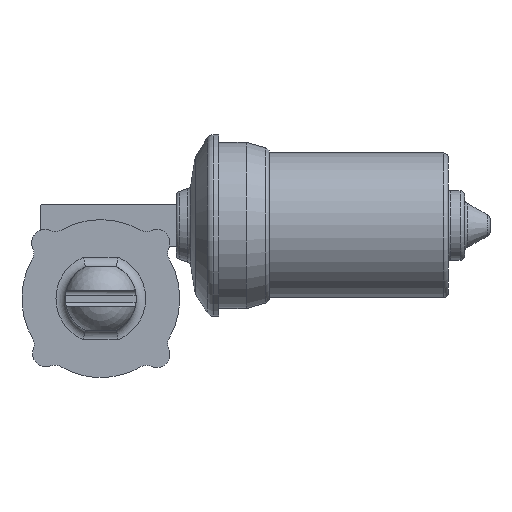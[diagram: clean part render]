
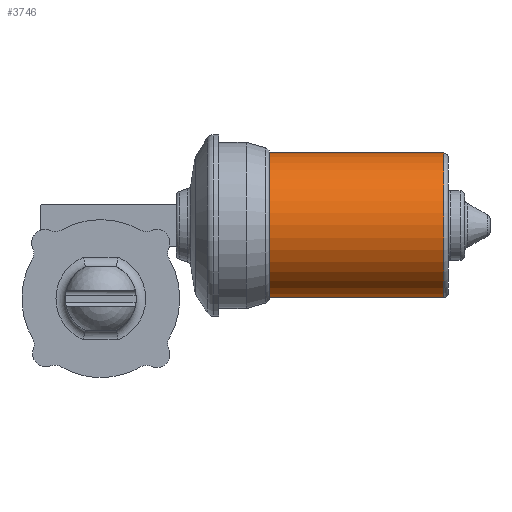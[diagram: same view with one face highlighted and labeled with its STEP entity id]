
A CAD part, left-side view. The second image highlights one B-rep face of the part: STEP entity #3746.
In plain terms, the highlighted cylindrical face has radius 30.75 mm (diameter 61.5 mm), a full revolution.
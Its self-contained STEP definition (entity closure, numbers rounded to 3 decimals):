
#194=CYLINDRICAL_SURFACE('',#4178,30.75);
#384=CIRCLE('',#4177,30.75);
#385=CIRCLE('',#4179,30.75);
#1327=ORIENTED_EDGE('',*,*,#1938,.F.);
#1328=ORIENTED_EDGE('',*,*,#1937,.T.);
#1937=EDGE_CURVE('',#2319,#2319,#384,.T.);
#1938=EDGE_CURVE('',#2320,#2320,#385,.T.);
#2319=VERTEX_POINT('',#6531);
#2320=VERTEX_POINT('',#6534);
#3105=EDGE_LOOP('',(#1327));
#3106=EDGE_LOOP('',(#1328));
#3380=FACE_BOUND('',#3105,.T.);
#3381=FACE_BOUND('',#3106,.T.);
#3746=ADVANCED_FACE('',(#3380,#3381),#194,.T.);
#4177=AXIS2_PLACEMENT_3D('',#6530,#5220,#5221);
#4178=AXIS2_PLACEMENT_3D('',#6532,#5222,#5223);
#4179=AXIS2_PLACEMENT_3D('',#6533,#5224,#5225);
#5220=DIRECTION('',(0.,-1.,0.));
#5221=DIRECTION('',(0.,0.,-1.));
#5222=DIRECTION('',(0.,-1.,0.));
#5223=DIRECTION('',(0.,0.,-1.));
#5224=DIRECTION('',(0.,-1.,0.));
#5225=DIRECTION('',(0.,0.,-1.));
#6530=CARTESIAN_POINT('',(0.,95.3,0.));
#6531=CARTESIAN_POINT('',(0.,95.3,-30.75));
#6532=CARTESIAN_POINT('',(0.,0.,0.));
#6533=CARTESIAN_POINT('',(0.,21.4,0.));
#6534=CARTESIAN_POINT('',(0.,21.4,-30.75));
